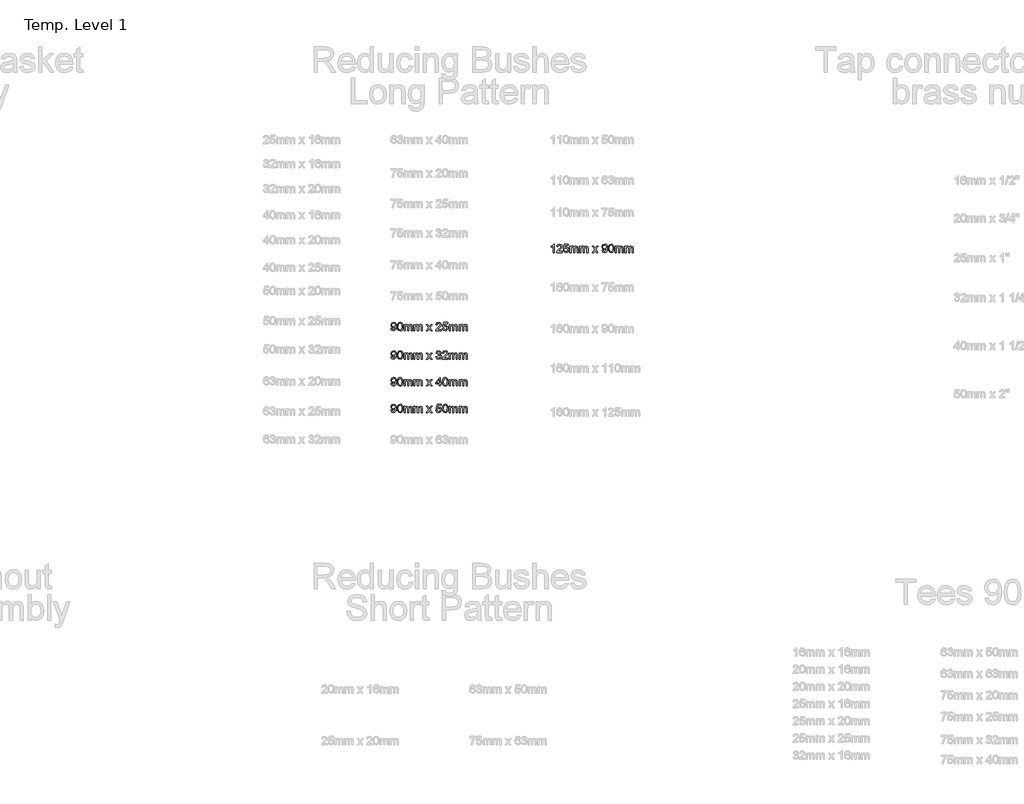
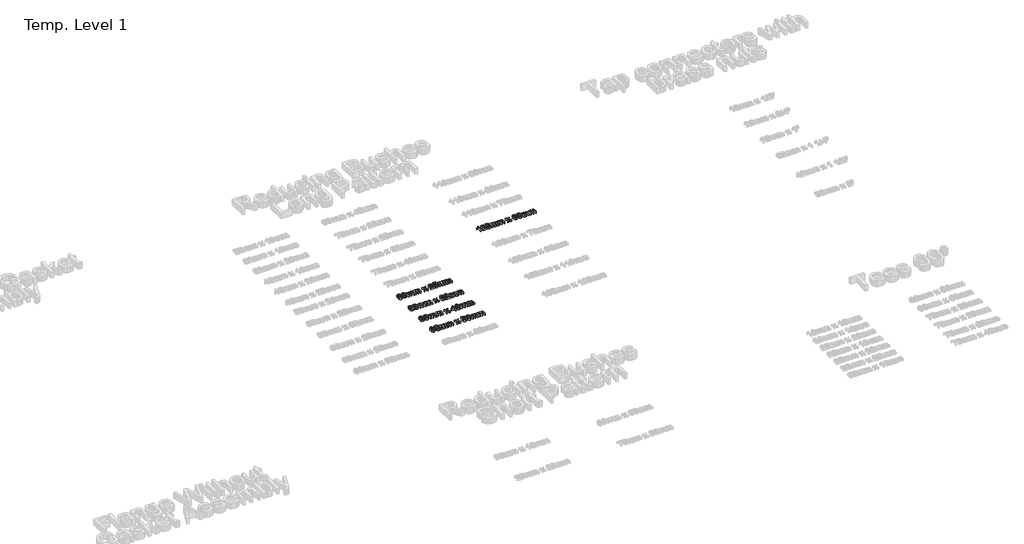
# One storey, part 45 of 62: 5 proxies.
"""IFC4 building model written with IfcOpenShell, lengths in millimetres."""

from ifc_helpers import new_model, si_unit, origin, origin_with_axes, place, context, project, spatial, polyline, outline, extrude, element, save

model = new_model("IFC4")

# Units and contexts
model_context = context("Model", 3, world=origin())
ifc_project = project(units=[si_unit("LENGTHUNIT", "METRE", prefix="MILLI")], contexts=[model_context])

# Site, building, storey
site = spatial("IfcSite", under=ifc_project)
building = spatial("IfcBuilding", under=site)
storey = spatial("IfcBuildingStorey", under=building, Name="Temp. Level 1", Elevation=0.0)

# Proxies
placement = place(None, origin())
element("IfcBuildingElementProxy", 1, Name="50mm Arial", ObjectType="50mm Arial", at=placement, inside=storey, context=model_context, shape_type="SweptSolid", body=[
    extrude(outline(polyline([(24080.1485724, -5468.2165118), (24086.3024185, -5467.447281), (24089.0668416, -5473.3186753), (24094.3072262, -5475.1395887), (24099.2891974, -5473.9677137), (24102.6666012, -5470.8367041), (24104.6798224, -5465.4881464), (24105.5692455, -5458.3487233), (24100.6113128, -5461.8102618), (24093.8625147, -5463.6011272), (24083.5800628, -5459.2261272), (24079.3793416, -5447.6996849), (24083.7843897, -5435.8006464), (24094.8240532, -5431.2934349), (24103.592082, -5433.8655503), (24109.6257359, -5441.197281), (24111.6870339, -5454.9713195), (24109.6317455, -5469.917233), (24103.5199666, -5478.384781), (24094.0187647, -5481.2934349), (24084.5596301, -5477.8619445), (24080.1485724, -5468.2165118)]), holes=[polyline([(24105.5331878, -5447.5554541), (24102.8769378, -5440.1756464), (24095.8216493, -5437.447281), (24088.4178032, -5440.385983), (24085.5331878, -5448.0001657), (24088.2615532, -5454.8210791), (24095.6533801, -5457.447281), (24102.7507359, -5454.8210791), (24105.5331878, -5447.5554541)])]), origin_with_axes(), (0.0, 0.0, 1.0), 15.0),
    extrude(outline(polyline([(24117.0716493, -5456.3054541), (24118.8805435, -5442.1407907), (24124.2531397, -5433.9737233), (24133.2254955, -5431.2934349), (24140.4129955, -5432.8799733), (24145.3769378, -5437.4532907), (24148.2615532, -5444.7369445), (24149.3793416, -5456.3054541), (24147.5884762, -5470.4100214), (24142.2339089, -5478.5951176), (24133.2254955, -5481.2934349), (24121.9754955, -5476.6059349), (24118.2976109, -5468.2796128), (24117.0716493, -5456.3054541)]), holes=[polyline([(24123.2254955, -5456.2934349), (24126.1101109, -5471.5758868), (24133.2254955, -5475.1395887), (24140.3408801, -5471.5638676), (24143.2254955, -5456.2934349), (24140.4370339, -5441.1852618), (24133.1533801, -5437.447281), (24126.2062647, -5440.7405503), (24123.2254955, -5456.2934349)])]), origin_with_axes(), (0.0, 0.0, 1.0), 15.0),
    extrude(outline(polyline([(24156.3024185, -5480.5242041), (24156.3024185, -5444.370358), (24162.4562647, -5444.370358), (24162.4562647, -5450.3198772), (24166.6870339, -5445.4460791), (24172.7086685, -5443.6011272), (24178.8745339, -5445.4821368), (24182.263957, -5450.7525695), (24187.0656397, -5445.3889878), (24193.1293416, -5443.6011272), (24201.1762166, -5446.5758868), (24203.9947262, -5455.7405503), (24203.9947262, -5480.5242041), (24197.8408801, -5480.5242041), (24197.8408801, -5458.384781), (24197.2699666, -5453.2465599), (24195.2026589, -5450.7165118), (24191.6870339, -5449.7549733), (24185.6353512, -5452.2189157), (24183.2254955, -5460.1155503), (24183.2254955, -5480.5242041), (24177.0716493, -5480.5242041), (24177.0716493, -5457.6996849), (24175.6473705, -5451.7381464), (24170.9778993, -5449.7549733), (24166.4226109, -5451.0770887), (24163.3937647, -5454.947281), (24162.4562647, -5462.291031), (24162.4562647, -5480.5242041), (24156.3024185, -5480.5242041)])), origin_with_axes(), (0.0, 0.0, 1.0), 15.0),
    extrude(outline(polyline([(24213.2254955, -5480.5242041), (24213.2254955, -5444.370358), (24219.3793416, -5444.370358), (24219.3793416, -5450.3198772), (24223.6101109, -5445.4460791), (24229.6317455, -5443.6011272), (24235.7976109, -5445.4821368), (24239.1870339, -5450.7525695), (24243.9887166, -5445.3889878), (24250.0524185, -5443.6011272), (24258.0992935, -5446.5758868), (24260.9178032, -5455.7405503), (24260.9178032, -5480.5242041), (24254.763957, -5480.5242041), (24254.763957, -5458.384781), (24254.1930435, -5453.2465599), (24252.1257359, -5450.7165118), (24248.6101109, -5449.7549733), (24242.5584282, -5452.2189157), (24240.1485724, -5460.1155503), (24240.1485724, -5480.5242041), (24233.9947262, -5480.5242041), (24233.9947262, -5457.6996849), (24232.5704474, -5451.7381464), (24227.9009762, -5449.7549733), (24223.3456878, -5451.0770887), (24220.3168416, -5454.947281), (24219.3793416, -5462.291031), (24219.3793416, -5480.5242041), (24213.2254955, -5480.5242041)])), origin_with_axes(), (0.0, 0.0, 1.0), 15.0),
    extrude(outline(polyline([(24285.5331878, -5480.5242041), (24298.6822262, -5462.3511272), (24286.3024185, -5444.370358), (24293.7062647, -5444.370358), (24299.6798224, -5453.0242041), (24302.4682839, -5457.1107426), (24304.8841493, -5453.7693964), (24311.6870339, -5444.370358), (24319.0908801, -5444.370358), (24306.0860724, -5462.3511272), (24318.6101109, -5480.5242041), (24311.2062647, -5480.5242041), (24303.670207, -5469.5987233), (24302.2879955, -5467.603531), (24292.9370339, -5480.5242041), (24285.5331878, -5480.5242041)])), origin_with_axes(), (0.0, 0.0, 1.0), 15.0),
    extrude(outline(polyline([(24373.2254955, -5474.370358), (24373.2254955, -5480.5242041), (24340.9178032, -5480.5242041), (24341.5788609, -5476.2814157), (24345.3168416, -5469.7489637), (24353.0211685, -5462.6155503), (24363.6461685, -5452.3631464), (24366.3024185, -5445.3919926), (24363.7964089, -5439.7489637), (24357.2519378, -5437.447281), (24350.4310243, -5439.6948772), (24347.8408801, -5445.9088195), (24341.6870339, -5445.1395887), (24346.404582, -5434.839108), (24357.3841493, -5431.2934349), (24368.3997743, -5435.2357426), (24372.4562647, -5445.0193964), (24371.3625147, -5450.854733), (24367.7266974, -5456.8883868), (24358.9105916, -5465.3198772), (24351.8312647, -5471.2393483), (24349.0548224, -5474.370358), (24373.2254955, -5474.370358)])), origin_with_axes(), (0.0, 0.0, 1.0), 15.0),
    extrude(outline(polyline([(24379.3793416, -5467.447281), (24385.5331878, -5466.6780503), (24388.6341493, -5473.0181945), (24395.0644378, -5475.1395887), (24402.7807839, -5472.1888676), (24405.5331878, -5464.3583387), (24402.9550628, -5457.0506464), (24395.1605916, -5454.370358), (24389.7579474, -5455.4400695), (24386.3024185, -5458.2165118), (24380.1485724, -5457.447281), (24385.5331878, -5432.0626657), (24409.3793416, -5432.0626657), (24409.3793416, -5438.2165118), (24390.5091493, -5438.2165118), (24387.8769378, -5451.7742041), (24396.8793416, -5448.2165118), (24407.4021782, -5452.6275695), (24411.6870339, -5463.9737233), (24407.8288609, -5475.3919926), (24402.2879955, -5479.8180743), (24395.0403993, -5481.2934349), (24384.1810243, -5477.5013676), (24379.3793416, -5467.447281)])), origin_with_axes(), (0.0, 0.0, 1.0), 15.0),
    extrude(outline(polyline([(24418.6101109, -5480.5242041), (24418.6101109, -5444.370358), (24424.763957, -5444.370358), (24424.763957, -5450.3198772), (24428.9947262, -5445.4460791), (24435.0163609, -5443.6011272), (24441.1822262, -5445.4821368), (24444.5716493, -5450.7525695), (24449.373332, -5445.3889878), (24455.4370339, -5443.6011272), (24463.4839089, -5446.5758868), (24466.3024185, -5455.7405503), (24466.3024185, -5480.5242041), (24460.1485724, -5480.5242041), (24460.1485724, -5458.384781), (24459.5776589, -5453.2465599), (24457.5103512, -5450.7165118), (24453.9947262, -5449.7549733), (24447.9430435, -5452.2189157), (24445.5331878, -5460.1155503), (24445.5331878, -5480.5242041), (24439.3793416, -5480.5242041), (24439.3793416, -5457.6996849), (24437.9550628, -5451.7381464), (24433.2855916, -5449.7549733), (24428.7303032, -5451.0770887), (24425.701457, -5454.947281), (24424.763957, -5462.291031), (24424.763957, -5480.5242041), (24418.6101109, -5480.5242041)])), origin_with_axes(), (0.0, 0.0, 1.0), 15.0),
    extrude(outline(polyline([(24475.5331878, -5480.5242041), (24475.5331878, -5444.370358), (24481.6870339, -5444.370358), (24481.6870339, -5450.3198772), (24485.9178032, -5445.4460791), (24491.9394378, -5443.6011272), (24498.1053032, -5445.4821368), (24501.4947262, -5450.7525695), (24506.2964089, -5445.3889878), (24512.3601109, -5443.6011272), (24520.4069859, -5446.5758868), (24523.2254955, -5455.7405503), (24523.2254955, -5480.5242041), (24517.0716493, -5480.5242041), (24517.0716493, -5458.384781), (24516.5007359, -5453.2465599), (24514.4334282, -5450.7165118), (24510.9178032, -5449.7549733), (24504.8661205, -5452.2189157), (24502.4562647, -5460.1155503), (24502.4562647, -5480.5242041), (24496.3024185, -5480.5242041), (24496.3024185, -5457.6996849), (24494.8781397, -5451.7381464), (24490.2086685, -5449.7549733), (24485.6533801, -5451.0770887), (24482.6245339, -5454.947281), (24481.6870339, -5462.291031), (24481.6870339, -5480.5242041), (24475.5331878, -5480.5242041)])), origin_with_axes(), (0.0, 0.0, 1.0), 15.0),
])
element("IfcBuildingElementProxy", 2, Name="50mm Arial", ObjectType="50mm Arial", at=placement, inside=storey, context=model_context, shape_type="SweptSolid", body=[
    extrude(outline(polyline([(24080.1485724, -5633.2165118), (24086.3024185, -5632.447281), (24089.0668416, -5638.3186753), (24094.3072262, -5640.1395887), (24099.2891974, -5638.9677137), (24102.6666012, -5635.8367041), (24104.6798224, -5630.4881464), (24105.5692455, -5623.3487233), (24100.6113128, -5626.8102618), (24093.8625147, -5628.6011272), (24083.5800628, -5624.2261272), (24079.3793416, -5612.6996849), (24083.7843897, -5600.8006464), (24094.8240532, -5596.2934349), (24103.592082, -5598.8655503), (24109.6257359, -5606.197281), (24111.6870339, -5619.9713195), (24109.6317455, -5634.917233), (24103.5199666, -5643.384781), (24094.0187647, -5646.2934349), (24084.5596301, -5642.8619445), (24080.1485724, -5633.2165118)]), holes=[polyline([(24105.5331878, -5612.5554541), (24102.8769378, -5605.1756464), (24095.8216493, -5602.447281), (24088.4178032, -5605.385983), (24085.5331878, -5613.0001657), (24088.2615532, -5619.8210791), (24095.6533801, -5622.447281), (24102.7507359, -5619.8210791), (24105.5331878, -5612.5554541)])]), origin_with_axes(), (0.0, 0.0, 1.0), 15.0),
    extrude(outline(polyline([(24117.0716493, -5621.3054541), (24118.8805435, -5607.1407907), (24124.2531397, -5598.9737233), (24133.2254955, -5596.2934349), (24140.4129955, -5597.8799733), (24145.3769378, -5602.4532907), (24148.2615532, -5609.7369445), (24149.3793416, -5621.3054541), (24147.5884762, -5635.4100214), (24142.2339089, -5643.5951176), (24133.2254955, -5646.2934349), (24121.9754955, -5641.6059349), (24118.2976109, -5633.2796128), (24117.0716493, -5621.3054541)]), holes=[polyline([(24123.2254955, -5621.2934349), (24126.1101109, -5636.5758868), (24133.2254955, -5640.1395887), (24140.3408801, -5636.5638676), (24143.2254955, -5621.2934349), (24140.4370339, -5606.1852618), (24133.1533801, -5602.447281), (24126.2062647, -5605.7405503), (24123.2254955, -5621.2934349)])]), origin_with_axes(), (0.0, 0.0, 1.0), 15.0),
    extrude(outline(polyline([(24156.3024185, -5645.5242041), (24156.3024185, -5609.370358), (24162.4562647, -5609.370358), (24162.4562647, -5615.3198772), (24166.6870339, -5610.4460791), (24172.7086685, -5608.6011272), (24178.8745339, -5610.4821368), (24182.263957, -5615.7525695), (24187.0656397, -5610.3889878), (24193.1293416, -5608.6011272), (24201.1762166, -5611.5758868), (24203.9947262, -5620.7405503), (24203.9947262, -5645.5242041), (24197.8408801, -5645.5242041), (24197.8408801, -5623.384781), (24197.2699666, -5618.2465599), (24195.2026589, -5615.7165118), (24191.6870339, -5614.7549733), (24185.6353512, -5617.2189157), (24183.2254955, -5625.1155503), (24183.2254955, -5645.5242041), (24177.0716493, -5645.5242041), (24177.0716493, -5622.6996849), (24175.6473705, -5616.7381464), (24170.9778993, -5614.7549733), (24166.4226109, -5616.0770887), (24163.3937647, -5619.947281), (24162.4562647, -5627.291031), (24162.4562647, -5645.5242041), (24156.3024185, -5645.5242041)])), origin_with_axes(), (0.0, 0.0, 1.0), 15.0),
    extrude(outline(polyline([(24213.2254955, -5645.5242041), (24213.2254955, -5609.370358), (24219.3793416, -5609.370358), (24219.3793416, -5615.3198772), (24223.6101109, -5610.4460791), (24229.6317455, -5608.6011272), (24235.7976109, -5610.4821368), (24239.1870339, -5615.7525695), (24243.9887166, -5610.3889878), (24250.0524185, -5608.6011272), (24258.0992935, -5611.5758868), (24260.9178032, -5620.7405503), (24260.9178032, -5645.5242041), (24254.763957, -5645.5242041), (24254.763957, -5623.384781), (24254.1930435, -5618.2465599), (24252.1257359, -5615.7165118), (24248.6101109, -5614.7549733), (24242.5584282, -5617.2189157), (24240.1485724, -5625.1155503), (24240.1485724, -5645.5242041), (24233.9947262, -5645.5242041), (24233.9947262, -5622.6996849), (24232.5704474, -5616.7381464), (24227.9009762, -5614.7549733), (24223.3456878, -5616.0770887), (24220.3168416, -5619.947281), (24219.3793416, -5627.291031), (24219.3793416, -5645.5242041), (24213.2254955, -5645.5242041)])), origin_with_axes(), (0.0, 0.0, 1.0), 15.0),
    extrude(outline(polyline([(24285.5331878, -5645.5242041), (24298.6822262, -5627.3511272), (24286.3024185, -5609.370358), (24293.7062647, -5609.370358), (24299.6798224, -5618.0242041), (24302.4682839, -5622.1107426), (24304.8841493, -5618.7693964), (24311.6870339, -5609.370358), (24319.0908801, -5609.370358), (24306.0860724, -5627.3511272), (24318.6101109, -5645.5242041), (24311.2062647, -5645.5242041), (24303.670207, -5634.5987233), (24302.2879955, -5632.603531), (24292.9370339, -5645.5242041), (24285.5331878, -5645.5242041)])), origin_with_axes(), (0.0, 0.0, 1.0), 15.0),
    extrude(outline(polyline([(24341.6870339, -5632.447281), (24347.8408801, -5631.6780503), (24351.2363128, -5638.1564157), (24357.5884762, -5640.1395887), (24365.0644378, -5637.4112233), (24367.8408801, -5630.6564157), (24365.0884762, -5624.292233), (24358.0932839, -5621.7742041), (24353.7783801, -5622.447281), (24354.4634762, -5616.2934349), (24362.4322262, -5614.5987233), (24365.5331878, -5609.166031), (24363.2855916, -5604.3523291), (24357.4923224, -5602.447281), (24351.6269378, -5604.370358), (24348.6101109, -5610.1395887), (24342.4562647, -5609.370358), (24347.4923224, -5599.7189157), (24357.2759762, -5596.2934349), (24364.6978512, -5597.9821368), (24369.8901589, -5602.5975214), (24371.6870339, -5608.8054541), (24369.9803032, -5614.478531), (24364.9322262, -5618.5530503), (24371.638957, -5622.759781), (24373.9947262, -5630.7645887), (24369.2831878, -5641.7742041), (24357.3721301, -5646.2934349), (24346.5788609, -5642.4352618), (24341.6870339, -5632.447281)])), origin_with_axes(), (0.0, 0.0, 1.0), 15.0),
    extrude(outline(polyline([(24410.9178032, -5639.370358), (24410.9178032, -5645.5242041), (24378.6101109, -5645.5242041), (24379.2711685, -5641.2814157), (24383.0091493, -5634.7489637), (24390.7134762, -5627.6155503), (24401.3384762, -5617.3631464), (24403.9947262, -5610.3919926), (24401.4887166, -5604.7489637), (24394.9442455, -5602.447281), (24388.123332, -5604.6948772), (24385.5331878, -5610.9088195), (24379.3793416, -5610.1395887), (24384.0968897, -5599.839108), (24395.076457, -5596.2934349), (24406.092082, -5600.2357426), (24410.1485724, -5610.0193964), (24409.0548224, -5615.854733), (24405.4190051, -5621.8883868), (24396.6028993, -5630.3198772), (24389.5235724, -5636.2393483), (24386.7471301, -5639.370358), (24410.9178032, -5639.370358)])), origin_with_axes(), (0.0, 0.0, 1.0), 15.0),
    extrude(outline(polyline([(24418.6101109, -5645.5242041), (24418.6101109, -5609.370358), (24424.763957, -5609.370358), (24424.763957, -5615.3198772), (24428.9947262, -5610.4460791), (24435.0163609, -5608.6011272), (24441.1822262, -5610.4821368), (24444.5716493, -5615.7525695), (24449.373332, -5610.3889878), (24455.4370339, -5608.6011272), (24463.4839089, -5611.5758868), (24466.3024185, -5620.7405503), (24466.3024185, -5645.5242041), (24460.1485724, -5645.5242041), (24460.1485724, -5623.384781), (24459.5776589, -5618.2465599), (24457.5103512, -5615.7165118), (24453.9947262, -5614.7549733), (24447.9430435, -5617.2189157), (24445.5331878, -5625.1155503), (24445.5331878, -5645.5242041), (24439.3793416, -5645.5242041), (24439.3793416, -5622.6996849), (24437.9550628, -5616.7381464), (24433.2855916, -5614.7549733), (24428.7303032, -5616.0770887), (24425.701457, -5619.947281), (24424.763957, -5627.291031), (24424.763957, -5645.5242041), (24418.6101109, -5645.5242041)])), origin_with_axes(), (0.0, 0.0, 1.0), 15.0),
    extrude(outline(polyline([(24475.5331878, -5645.5242041), (24475.5331878, -5609.370358), (24481.6870339, -5609.370358), (24481.6870339, -5615.3198772), (24485.9178032, -5610.4460791), (24491.9394378, -5608.6011272), (24498.1053032, -5610.4821368), (24501.4947262, -5615.7525695), (24506.2964089, -5610.3889878), (24512.3601109, -5608.6011272), (24520.4069859, -5611.5758868), (24523.2254955, -5620.7405503), (24523.2254955, -5645.5242041), (24517.0716493, -5645.5242041), (24517.0716493, -5623.384781), (24516.5007359, -5618.2465599), (24514.4334282, -5615.7165118), (24510.9178032, -5614.7549733), (24504.8661205, -5617.2189157), (24502.4562647, -5625.1155503), (24502.4562647, -5645.5242041), (24496.3024185, -5645.5242041), (24496.3024185, -5622.6996849), (24494.8781397, -5616.7381464), (24490.2086685, -5614.7549733), (24485.6533801, -5616.0770887), (24482.6245339, -5619.947281), (24481.6870339, -5627.291031), (24481.6870339, -5645.5242041), (24475.5331878, -5645.5242041)])), origin_with_axes(), (0.0, 0.0, 1.0), 15.0),
])
element("IfcBuildingElementProxy", 3, Name="50mm Arial", ObjectType="50mm Arial", at=placement, inside=storey, context=model_context, shape_type="SweptSolid", body=[
    extrude(outline(polyline([(24080.1485724, -5788.2165118), (24086.3024185, -5787.447281), (24089.0668416, -5793.3186753), (24094.3072262, -5795.1395887), (24099.2891974, -5793.9677137), (24102.6666012, -5790.8367041), (24104.6798224, -5785.4881464), (24105.5692455, -5778.3487233), (24100.6113128, -5781.8102618), (24093.8625147, -5783.6011272), (24083.5800628, -5779.2261272), (24079.3793416, -5767.6996849), (24083.7843897, -5755.8006464), (24094.8240532, -5751.2934349), (24103.592082, -5753.8655503), (24109.6257359, -5761.197281), (24111.6870339, -5774.9713195), (24109.6317455, -5789.917233), (24103.5199666, -5798.384781), (24094.0187647, -5801.2934349), (24084.5596301, -5797.8619445), (24080.1485724, -5788.2165118)]), holes=[polyline([(24105.5331878, -5767.5554541), (24102.8769378, -5760.1756464), (24095.8216493, -5757.447281), (24088.4178032, -5760.385983), (24085.5331878, -5768.0001657), (24088.2615532, -5774.8210791), (24095.6533801, -5777.447281), (24102.7507359, -5774.8210791), (24105.5331878, -5767.5554541)])]), origin_with_axes(), (0.0, 0.0, 1.0), 15.0),
    extrude(outline(polyline([(24117.0716493, -5776.3054541), (24118.8805435, -5762.1407907), (24124.2531397, -5753.9737233), (24133.2254955, -5751.2934349), (24140.4129955, -5752.8799733), (24145.3769378, -5757.4532907), (24148.2615532, -5764.7369445), (24149.3793416, -5776.3054541), (24147.5884762, -5790.4100214), (24142.2339089, -5798.5951176), (24133.2254955, -5801.2934349), (24121.9754955, -5796.6059349), (24118.2976109, -5788.2796128), (24117.0716493, -5776.3054541)]), holes=[polyline([(24123.2254955, -5776.2934349), (24126.1101109, -5791.5758868), (24133.2254955, -5795.1395887), (24140.3408801, -5791.5638676), (24143.2254955, -5776.2934349), (24140.4370339, -5761.1852618), (24133.1533801, -5757.447281), (24126.2062647, -5760.7405503), (24123.2254955, -5776.2934349)])]), origin_with_axes(), (0.0, 0.0, 1.0), 15.0),
    extrude(outline(polyline([(24156.3024185, -5800.5242041), (24156.3024185, -5764.370358), (24162.4562647, -5764.370358), (24162.4562647, -5770.3198772), (24166.6870339, -5765.4460791), (24172.7086685, -5763.6011272), (24178.8745339, -5765.4821368), (24182.263957, -5770.7525695), (24187.0656397, -5765.3889878), (24193.1293416, -5763.6011272), (24201.1762166, -5766.5758868), (24203.9947262, -5775.7405503), (24203.9947262, -5800.5242041), (24197.8408801, -5800.5242041), (24197.8408801, -5778.384781), (24197.2699666, -5773.2465599), (24195.2026589, -5770.7165118), (24191.6870339, -5769.7549733), (24185.6353512, -5772.2189157), (24183.2254955, -5780.1155503), (24183.2254955, -5800.5242041), (24177.0716493, -5800.5242041), (24177.0716493, -5777.6996849), (24175.6473705, -5771.7381464), (24170.9778993, -5769.7549733), (24166.4226109, -5771.0770887), (24163.3937647, -5774.947281), (24162.4562647, -5782.291031), (24162.4562647, -5800.5242041), (24156.3024185, -5800.5242041)])), origin_with_axes(), (0.0, 0.0, 1.0), 15.0),
    extrude(outline(polyline([(24213.2254955, -5800.5242041), (24213.2254955, -5764.370358), (24219.3793416, -5764.370358), (24219.3793416, -5770.3198772), (24223.6101109, -5765.4460791), (24229.6317455, -5763.6011272), (24235.7976109, -5765.4821368), (24239.1870339, -5770.7525695), (24243.9887166, -5765.3889878), (24250.0524185, -5763.6011272), (24258.0992935, -5766.5758868), (24260.9178032, -5775.7405503), (24260.9178032, -5800.5242041), (24254.763957, -5800.5242041), (24254.763957, -5778.384781), (24254.1930435, -5773.2465599), (24252.1257359, -5770.7165118), (24248.6101109, -5769.7549733), (24242.5584282, -5772.2189157), (24240.1485724, -5780.1155503), (24240.1485724, -5800.5242041), (24233.9947262, -5800.5242041), (24233.9947262, -5777.6996849), (24232.5704474, -5771.7381464), (24227.9009762, -5769.7549733), (24223.3456878, -5771.0770887), (24220.3168416, -5774.947281), (24219.3793416, -5782.291031), (24219.3793416, -5800.5242041), (24213.2254955, -5800.5242041)])), origin_with_axes(), (0.0, 0.0, 1.0), 15.0),
    extrude(outline(polyline([(24285.5331878, -5800.5242041), (24298.6822262, -5782.3511272), (24286.3024185, -5764.370358), (24293.7062647, -5764.370358), (24299.6798224, -5773.0242041), (24302.4682839, -5777.1107426), (24304.8841493, -5773.7693964), (24311.6870339, -5764.370358), (24319.0908801, -5764.370358), (24306.0860724, -5782.3511272), (24318.6101109, -5800.5242041), (24311.2062647, -5800.5242041), (24303.670207, -5789.5987233), (24302.2879955, -5787.603531), (24292.9370339, -5800.5242041), (24285.5331878, -5800.5242041)])), origin_with_axes(), (0.0, 0.0, 1.0), 15.0),
    extrude(outline(polyline([(24361.6870339, -5800.5242041), (24361.6870339, -5788.9857426), (24339.3793416, -5788.9857426), (24339.3793416, -5782.8318964), (24363.2254955, -5752.0626657), (24367.8408801, -5752.0626657), (24367.8408801, -5782.8318964), (24373.9947262, -5782.8318964), (24373.9947262, -5788.9857426), (24367.8408801, -5788.9857426), (24367.8408801, -5800.5242041), (24361.6870339, -5800.5242041)]), holes=[polyline([(24361.6870339, -5782.8318964), (24361.6870339, -5763.8174733), (24346.951457, -5782.8318964), (24361.6870339, -5782.8318964)])]), origin_with_axes(), (0.0, 0.0, 1.0), 15.0),
    extrude(outline(polyline([(24379.3793416, -5776.3054541), (24381.1882359, -5762.1407907), (24386.560832, -5753.9737233), (24395.5331878, -5751.2934349), (24402.7206878, -5752.8799733), (24407.6846301, -5757.4532907), (24410.5692455, -5764.7369445), (24411.6870339, -5776.3054541), (24409.8961685, -5790.4100214), (24404.5416012, -5798.5951176), (24395.5331878, -5801.2934349), (24384.2831878, -5796.6059349), (24380.6053032, -5788.2796128), (24379.3793416, -5776.3054541)]), holes=[polyline([(24385.5331878, -5776.2934349), (24388.4178032, -5791.5758868), (24395.5331878, -5795.1395887), (24402.6485724, -5791.5638676), (24405.5331878, -5776.2934349), (24402.7447262, -5761.1852618), (24395.4610724, -5757.447281), (24388.513957, -5760.7405503), (24385.5331878, -5776.2934349)])]), origin_with_axes(), (0.0, 0.0, 1.0), 15.0),
    extrude(outline(polyline([(24418.6101109, -5800.5242041), (24418.6101109, -5764.370358), (24424.763957, -5764.370358), (24424.763957, -5770.3198772), (24428.9947262, -5765.4460791), (24435.0163609, -5763.6011272), (24441.1822262, -5765.4821368), (24444.5716493, -5770.7525695), (24449.373332, -5765.3889878), (24455.4370339, -5763.6011272), (24463.4839089, -5766.5758868), (24466.3024185, -5775.7405503), (24466.3024185, -5800.5242041), (24460.1485724, -5800.5242041), (24460.1485724, -5778.384781), (24459.5776589, -5773.2465599), (24457.5103512, -5770.7165118), (24453.9947262, -5769.7549733), (24447.9430435, -5772.2189157), (24445.5331878, -5780.1155503), (24445.5331878, -5800.5242041), (24439.3793416, -5800.5242041), (24439.3793416, -5777.6996849), (24437.9550628, -5771.7381464), (24433.2855916, -5769.7549733), (24428.7303032, -5771.0770887), (24425.701457, -5774.947281), (24424.763957, -5782.291031), (24424.763957, -5800.5242041), (24418.6101109, -5800.5242041)])), origin_with_axes(), (0.0, 0.0, 1.0), 15.0),
    extrude(outline(polyline([(24475.5331878, -5800.5242041), (24475.5331878, -5764.370358), (24481.6870339, -5764.370358), (24481.6870339, -5770.3198772), (24485.9178032, -5765.4460791), (24491.9394378, -5763.6011272), (24498.1053032, -5765.4821368), (24501.4947262, -5770.7525695), (24506.2964089, -5765.3889878), (24512.3601109, -5763.6011272), (24520.4069859, -5766.5758868), (24523.2254955, -5775.7405503), (24523.2254955, -5800.5242041), (24517.0716493, -5800.5242041), (24517.0716493, -5778.384781), (24516.5007359, -5773.2465599), (24514.4334282, -5770.7165118), (24510.9178032, -5769.7549733), (24504.8661205, -5772.2189157), (24502.4562647, -5780.1155503), (24502.4562647, -5800.5242041), (24496.3024185, -5800.5242041), (24496.3024185, -5777.6996849), (24494.8781397, -5771.7381464), (24490.2086685, -5769.7549733), (24485.6533801, -5771.0770887), (24482.6245339, -5774.947281), (24481.6870339, -5782.291031), (24481.6870339, -5800.5242041), (24475.5331878, -5800.5242041)])), origin_with_axes(), (0.0, 0.0, 1.0), 15.0),
])
element("IfcBuildingElementProxy", 4, Name="50mm Arial", ObjectType="50mm Arial", at=placement, inside=storey, context=model_context, shape_type="SweptSolid", body=[
    extrude(outline(polyline([(24080.1485724, -5943.2165118), (24086.3024185, -5942.447281), (24089.0668416, -5948.3186753), (24094.3072262, -5950.1395887), (24099.2891974, -5948.9677137), (24102.6666012, -5945.8367041), (24104.6798224, -5940.4881464), (24105.5692455, -5933.3487233), (24100.6113128, -5936.8102618), (24093.8625147, -5938.6011272), (24083.5800628, -5934.2261272), (24079.3793416, -5922.6996849), (24083.7843897, -5910.8006464), (24094.8240532, -5906.2934349), (24103.592082, -5908.8655503), (24109.6257359, -5916.197281), (24111.6870339, -5929.9713195), (24109.6317455, -5944.917233), (24103.5199666, -5953.384781), (24094.0187647, -5956.2934349), (24084.5596301, -5952.8619445), (24080.1485724, -5943.2165118)]), holes=[polyline([(24105.5331878, -5922.5554541), (24102.8769378, -5915.1756464), (24095.8216493, -5912.447281), (24088.4178032, -5915.385983), (24085.5331878, -5923.0001657), (24088.2615532, -5929.8210791), (24095.6533801, -5932.447281), (24102.7507359, -5929.8210791), (24105.5331878, -5922.5554541)])]), origin_with_axes(), (0.0, 0.0, 1.0), 15.0),
    extrude(outline(polyline([(24117.0716493, -5931.3054541), (24118.8805435, -5917.1407907), (24124.2531397, -5908.9737233), (24133.2254955, -5906.2934349), (24140.4129955, -5907.8799733), (24145.3769378, -5912.4532907), (24148.2615532, -5919.7369445), (24149.3793416, -5931.3054541), (24147.5884762, -5945.4100214), (24142.2339089, -5953.5951176), (24133.2254955, -5956.2934349), (24121.9754955, -5951.6059349), (24118.2976109, -5943.2796128), (24117.0716493, -5931.3054541)]), holes=[polyline([(24123.2254955, -5931.2934349), (24126.1101109, -5946.5758868), (24133.2254955, -5950.1395887), (24140.3408801, -5946.5638676), (24143.2254955, -5931.2934349), (24140.4370339, -5916.1852618), (24133.1533801, -5912.447281), (24126.2062647, -5915.7405503), (24123.2254955, -5931.2934349)])]), origin_with_axes(), (0.0, 0.0, 1.0), 15.0),
    extrude(outline(polyline([(24156.3024185, -5955.5242041), (24156.3024185, -5919.370358), (24162.4562647, -5919.370358), (24162.4562647, -5925.3198772), (24166.6870339, -5920.4460791), (24172.7086685, -5918.6011272), (24178.8745339, -5920.4821368), (24182.263957, -5925.7525695), (24187.0656397, -5920.3889878), (24193.1293416, -5918.6011272), (24201.1762166, -5921.5758868), (24203.9947262, -5930.7405503), (24203.9947262, -5955.5242041), (24197.8408801, -5955.5242041), (24197.8408801, -5933.384781), (24197.2699666, -5928.2465599), (24195.2026589, -5925.7165118), (24191.6870339, -5924.7549733), (24185.6353512, -5927.2189157), (24183.2254955, -5935.1155503), (24183.2254955, -5955.5242041), (24177.0716493, -5955.5242041), (24177.0716493, -5932.6996849), (24175.6473705, -5926.7381464), (24170.9778993, -5924.7549733), (24166.4226109, -5926.0770887), (24163.3937647, -5929.947281), (24162.4562647, -5937.291031), (24162.4562647, -5955.5242041), (24156.3024185, -5955.5242041)])), origin_with_axes(), (0.0, 0.0, 1.0), 15.0),
    extrude(outline(polyline([(24213.2254955, -5955.5242041), (24213.2254955, -5919.370358), (24219.3793416, -5919.370358), (24219.3793416, -5925.3198772), (24223.6101109, -5920.4460791), (24229.6317455, -5918.6011272), (24235.7976109, -5920.4821368), (24239.1870339, -5925.7525695), (24243.9887166, -5920.3889878), (24250.0524185, -5918.6011272), (24258.0992935, -5921.5758868), (24260.9178032, -5930.7405503), (24260.9178032, -5955.5242041), (24254.763957, -5955.5242041), (24254.763957, -5933.384781), (24254.1930435, -5928.2465599), (24252.1257359, -5925.7165118), (24248.6101109, -5924.7549733), (24242.5584282, -5927.2189157), (24240.1485724, -5935.1155503), (24240.1485724, -5955.5242041), (24233.9947262, -5955.5242041), (24233.9947262, -5932.6996849), (24232.5704474, -5926.7381464), (24227.9009762, -5924.7549733), (24223.3456878, -5926.0770887), (24220.3168416, -5929.947281), (24219.3793416, -5937.291031), (24219.3793416, -5955.5242041), (24213.2254955, -5955.5242041)])), origin_with_axes(), (0.0, 0.0, 1.0), 15.0),
    extrude(outline(polyline([(24285.5331878, -5955.5242041), (24298.6822262, -5937.3511272), (24286.3024185, -5919.370358), (24293.7062647, -5919.370358), (24299.6798224, -5928.0242041), (24302.4682839, -5932.1107426), (24304.8841493, -5928.7693964), (24311.6870339, -5919.370358), (24319.0908801, -5919.370358), (24306.0860724, -5937.3511272), (24318.6101109, -5955.5242041), (24311.2062647, -5955.5242041), (24303.670207, -5944.5987233), (24302.2879955, -5942.603531), (24292.9370339, -5955.5242041), (24285.5331878, -5955.5242041)])), origin_with_axes(), (0.0, 0.0, 1.0), 15.0),
    extrude(outline(polyline([(24341.6870339, -5942.447281), (24347.8408801, -5941.6780503), (24350.9418416, -5948.0181945), (24357.3721301, -5950.1395887), (24365.0884762, -5947.1888676), (24367.8408801, -5939.3583387), (24365.2627551, -5932.0506464), (24357.4682839, -5929.370358), (24352.0656397, -5930.4400695), (24348.6101109, -5933.2165118), (24342.4562647, -5932.447281), (24347.8408801, -5907.0626657), (24371.6870339, -5907.0626657), (24371.6870339, -5913.2165118), (24352.8168416, -5913.2165118), (24350.1846301, -5926.7742041), (24359.1870339, -5923.2165118), (24369.7098705, -5927.6275695), (24373.9947262, -5938.9737233), (24370.1365532, -5950.3919926), (24364.5956878, -5954.8180743), (24357.3480916, -5956.2934349), (24346.4887166, -5952.5013676), (24341.6870339, -5942.447281)])), origin_with_axes(), (0.0, 0.0, 1.0), 15.0),
    extrude(outline(polyline([(24379.3793416, -5931.3054541), (24381.1882359, -5917.1407907), (24386.560832, -5908.9737233), (24395.5331878, -5906.2934349), (24402.7206878, -5907.8799733), (24407.6846301, -5912.4532907), (24410.5692455, -5919.7369445), (24411.6870339, -5931.3054541), (24409.8961685, -5945.4100214), (24404.5416012, -5953.5951176), (24395.5331878, -5956.2934349), (24384.2831878, -5951.6059349), (24380.6053032, -5943.2796128), (24379.3793416, -5931.3054541)]), holes=[polyline([(24385.5331878, -5931.2934349), (24388.4178032, -5946.5758868), (24395.5331878, -5950.1395887), (24402.6485724, -5946.5638676), (24405.5331878, -5931.2934349), (24402.7447262, -5916.1852618), (24395.4610724, -5912.447281), (24388.513957, -5915.7405503), (24385.5331878, -5931.2934349)])]), origin_with_axes(), (0.0, 0.0, 1.0), 15.0),
    extrude(outline(polyline([(24418.6101109, -5955.5242041), (24418.6101109, -5919.370358), (24424.763957, -5919.370358), (24424.763957, -5925.3198772), (24428.9947262, -5920.4460791), (24435.0163609, -5918.6011272), (24441.1822262, -5920.4821368), (24444.5716493, -5925.7525695), (24449.373332, -5920.3889878), (24455.4370339, -5918.6011272), (24463.4839089, -5921.5758868), (24466.3024185, -5930.7405503), (24466.3024185, -5955.5242041), (24460.1485724, -5955.5242041), (24460.1485724, -5933.384781), (24459.5776589, -5928.2465599), (24457.5103512, -5925.7165118), (24453.9947262, -5924.7549733), (24447.9430435, -5927.2189157), (24445.5331878, -5935.1155503), (24445.5331878, -5955.5242041), (24439.3793416, -5955.5242041), (24439.3793416, -5932.6996849), (24437.9550628, -5926.7381464), (24433.2855916, -5924.7549733), (24428.7303032, -5926.0770887), (24425.701457, -5929.947281), (24424.763957, -5937.291031), (24424.763957, -5955.5242041), (24418.6101109, -5955.5242041)])), origin_with_axes(), (0.0, 0.0, 1.0), 15.0),
    extrude(outline(polyline([(24475.5331878, -5955.5242041), (24475.5331878, -5919.370358), (24481.6870339, -5919.370358), (24481.6870339, -5925.3198772), (24485.9178032, -5920.4460791), (24491.9394378, -5918.6011272), (24498.1053032, -5920.4821368), (24501.4947262, -5925.7525695), (24506.2964089, -5920.3889878), (24512.3601109, -5918.6011272), (24520.4069859, -5921.5758868), (24523.2254955, -5930.7405503), (24523.2254955, -5955.5242041), (24517.0716493, -5955.5242041), (24517.0716493, -5933.384781), (24516.5007359, -5928.2465599), (24514.4334282, -5925.7165118), (24510.9178032, -5924.7549733), (24504.8661205, -5927.2189157), (24502.4562647, -5935.1155503), (24502.4562647, -5955.5242041), (24496.3024185, -5955.5242041), (24496.3024185, -5932.6996849), (24494.8781397, -5926.7381464), (24490.2086685, -5924.7549733), (24485.6533801, -5926.0770887), (24482.6245339, -5929.947281), (24481.6870339, -5937.291031), (24481.6870339, -5955.5242041), (24475.5331878, -5955.5242041)])), origin_with_axes(), (0.0, 0.0, 1.0), 15.0),
])
element("IfcBuildingElementProxy", 5, Name="50mm Arial", ObjectType="50mm Arial", at=placement, inside=storey, context=model_context, shape_type="SweptSolid", body=[
    extrude(outline(polyline([(25028.6101109, -5025.5242041), (25022.4562647, -5025.5242041), (25022.4562647, -4987.1588195), (25016.6269378, -4991.3114637), (25010.1485724, -4994.4184349), (25010.1485724, -4988.6011272), (25019.1690051, -4982.8439157), (25024.6437647, -4976.2934349), (25028.6101109, -4976.2934349), (25028.6101109, -5025.5242041)])), origin_with_axes(), (0.0, 0.0, 1.0), 15.0),
    extrude(outline(polyline([(25074.763957, -5019.370358), (25074.763957, -5025.5242041), (25042.4562647, -5025.5242041), (25043.1173224, -5021.2814157), (25046.8553032, -5014.7489637), (25054.5596301, -5007.6155503), (25065.1846301, -4997.3631464), (25067.8408801, -4990.3919926), (25065.3348705, -4984.7489637), (25058.7903993, -4982.447281), (25051.9694859, -4984.6948772), (25049.3793416, -4990.9088195), (25043.2254955, -4990.1395887), (25047.9430435, -4979.839108), (25058.9226109, -4976.2934349), (25069.9382359, -4980.2357426), (25073.9947262, -4990.0193964), (25072.9009762, -4995.854733), (25069.2651589, -5001.8883868), (25060.4490532, -5010.3198772), (25053.3697262, -5016.2393483), (25050.5932839, -5019.370358), (25074.763957, -5019.370358)])), origin_with_axes(), (0.0, 0.0, 1.0), 15.0),
    extrude(outline(polyline([(25080.9178032, -5012.447281), (25087.0716493, -5011.6780503), (25090.1726109, -5018.0181945), (25096.6028993, -5020.1395887), (25104.3192455, -5017.1888676), (25107.0716493, -5009.3583387), (25104.4935243, -5002.0506464), (25096.6990532, -4999.370358), (25091.2964089, -5000.4400695), (25087.8408801, -5003.2165118), (25081.6870339, -5002.447281), (25087.0716493, -4977.0626657), (25110.9178032, -4977.0626657), (25110.9178032, -4983.2165118), (25092.0476109, -4983.2165118), (25089.4153993, -4996.7742041), (25098.4178032, -4993.2165118), (25108.9406397, -4997.6275695), (25113.2254955, -5008.9737233), (25109.3673224, -5020.3919926), (25103.826457, -5024.8180743), (25096.5788609, -5026.2934349), (25085.7194859, -5022.5013676), (25080.9178032, -5012.447281)])), origin_with_axes(), (0.0, 0.0, 1.0), 15.0),
    extrude(outline(polyline([(25120.1485724, -5025.5242041), (25120.1485724, -4989.370358), (25126.3024185, -4989.370358), (25126.3024185, -4995.3198772), (25130.5331878, -4990.4460791), (25136.5548224, -4988.6011272), (25142.7206878, -4990.4821368), (25146.1101109, -4995.7525695), (25150.9117935, -4990.3889878), (25156.9754955, -4988.6011272), (25165.0223705, -4991.5758868), (25167.8408801, -5000.7405503), (25167.8408801, -5025.5242041), (25161.6870339, -5025.5242041), (25161.6870339, -5003.384781), (25161.1161205, -4998.2465599), (25159.0488128, -4995.7165118), (25155.5331878, -4994.7549733), (25149.4815051, -4997.2189157), (25147.0716493, -5005.1155503), (25147.0716493, -5025.5242041), (25140.9178032, -5025.5242041), (25140.9178032, -5002.6996849), (25139.4935243, -4996.7381464), (25134.8240532, -4994.7549733), (25130.2687647, -4996.0770887), (25127.2399185, -4999.947281), (25126.3024185, -5007.291031), (25126.3024185, -5025.5242041), (25120.1485724, -5025.5242041)])), origin_with_axes(), (0.0, 0.0, 1.0), 15.0),
    extrude(outline(polyline([(25177.0716493, -5025.5242041), (25177.0716493, -4989.370358), (25183.2254955, -4989.370358), (25183.2254955, -4995.3198772), (25187.4562647, -4990.4460791), (25193.4778993, -4988.6011272), (25199.6437647, -4990.4821368), (25203.0331878, -4995.7525695), (25207.8348705, -4990.3889878), (25213.8985724, -4988.6011272), (25221.9454474, -4991.5758868), (25224.763957, -5000.7405503), (25224.763957, -5025.5242041), (25218.6101109, -5025.5242041), (25218.6101109, -5003.384781), (25218.0391974, -4998.2465599), (25215.9718897, -4995.7165118), (25212.4562647, -4994.7549733), (25206.404582, -4997.2189157), (25203.9947262, -5005.1155503), (25203.9947262, -5025.5242041), (25197.8408801, -5025.5242041), (25197.8408801, -5002.6996849), (25196.4166012, -4996.7381464), (25191.7471301, -4994.7549733), (25187.1918416, -4996.0770887), (25184.1629955, -4999.947281), (25183.2254955, -5007.291031), (25183.2254955, -5025.5242041), (25177.0716493, -5025.5242041)])), origin_with_axes(), (0.0, 0.0, 1.0), 15.0),
    extrude(outline(polyline([(25249.3793416, -5025.5242041), (25262.5283801, -5007.3511272), (25250.1485724, -4989.370358), (25257.5524185, -4989.370358), (25263.5259762, -4998.0242041), (25266.3144378, -5002.1107426), (25268.7303032, -4998.7693964), (25275.5331878, -4989.370358), (25282.9370339, -4989.370358), (25269.9322262, -5007.3511272), (25282.4562647, -5025.5242041), (25275.0524185, -5025.5242041), (25267.5163609, -5014.5987233), (25266.1341493, -5012.603531), (25256.7831878, -5025.5242041), (25249.3793416, -5025.5242041)])), origin_with_axes(), (0.0, 0.0, 1.0), 15.0),
    extrude(outline(polyline([(25306.3024185, -5013.2165118), (25312.4562647, -5012.447281), (25315.2206878, -5018.3186753), (25320.4610724, -5020.1395887), (25325.4430435, -5018.9677137), (25328.8204474, -5015.8367041), (25330.8336685, -5010.4881464), (25331.7230916, -5003.3487233), (25326.7651589, -5006.8102618), (25320.0163609, -5008.6011272), (25309.7339089, -5004.2261272), (25305.5331878, -4992.6996849), (25309.9382359, -4980.8006464), (25320.9778993, -4976.2934349), (25329.7459282, -4978.8655503), (25335.779582, -4986.197281), (25337.8408801, -4999.9713195), (25335.7855916, -5014.917233), (25329.6738128, -5023.384781), (25320.1726109, -5026.2934349), (25310.7134762, -5022.8619445), (25306.3024185, -5013.2165118)]), holes=[polyline([(25331.6870339, -4992.5554541), (25329.0307839, -4985.1756464), (25321.9754955, -4982.447281), (25314.5716493, -4985.385983), (25311.6870339, -4993.0001657), (25314.4153993, -4999.8210791), (25321.8072262, -5002.447281), (25328.904582, -4999.8210791), (25331.6870339, -4992.5554541)])]), origin_with_axes(), (0.0, 0.0, 1.0), 15.0),
    extrude(outline(polyline([(25343.2254955, -5001.3054541), (25345.0343897, -4987.1407907), (25350.4069859, -4978.9737233), (25359.3793416, -4976.2934349), (25366.5668416, -4977.8799733), (25371.5307839, -4982.4532907), (25374.4153993, -4989.7369445), (25375.5331878, -5001.3054541), (25373.7423224, -5015.4100214), (25368.3877551, -5023.5951176), (25359.3793416, -5026.2934349), (25348.1293416, -5021.6059349), (25344.451457, -5013.2796128), (25343.2254955, -5001.3054541)]), holes=[polyline([(25349.3793416, -5001.2934349), (25352.263957, -5016.5758868), (25359.3793416, -5020.1395887), (25366.4947262, -5016.5638676), (25369.3793416, -5001.2934349), (25366.5908801, -4986.1852618), (25359.3072262, -4982.447281), (25352.3601109, -4985.7405503), (25349.3793416, -5001.2934349)])]), origin_with_axes(), (0.0, 0.0, 1.0), 15.0),
    extrude(outline(polyline([(25382.4562647, -5025.5242041), (25382.4562647, -4989.370358), (25388.6101109, -4989.370358), (25388.6101109, -4995.3198772), (25392.8408801, -4990.4460791), (25398.8625147, -4988.6011272), (25405.0283801, -4990.4821368), (25408.4178032, -4995.7525695), (25413.2194859, -4990.3889878), (25419.2831878, -4988.6011272), (25427.3300628, -4991.5758868), (25430.1485724, -5000.7405503), (25430.1485724, -5025.5242041), (25423.9947262, -5025.5242041), (25423.9947262, -5003.384781), (25423.4238128, -4998.2465599), (25421.3565051, -4995.7165118), (25417.8408801, -4994.7549733), (25411.7891974, -4997.2189157), (25409.3793416, -5005.1155503), (25409.3793416, -5025.5242041), (25403.2254955, -5025.5242041), (25403.2254955, -5002.6996849), (25401.8012166, -4996.7381464), (25397.1317455, -4994.7549733), (25392.576457, -4996.0770887), (25389.5476109, -4999.947281), (25388.6101109, -5007.291031), (25388.6101109, -5025.5242041), (25382.4562647, -5025.5242041)])), origin_with_axes(), (0.0, 0.0, 1.0), 15.0),
    extrude(outline(polyline([(25439.3793416, -5025.5242041), (25439.3793416, -4989.370358), (25445.5331878, -4989.370358), (25445.5331878, -4995.3198772), (25449.763957, -4990.4460791), (25455.7855916, -4988.6011272), (25461.951457, -4990.4821368), (25465.3408801, -4995.7525695), (25470.1425628, -4990.3889878), (25476.2062647, -4988.6011272), (25484.2531397, -4991.5758868), (25487.0716493, -5000.7405503), (25487.0716493, -5025.5242041), (25480.9178032, -5025.5242041), (25480.9178032, -5003.384781), (25480.3468897, -4998.2465599), (25478.279582, -4995.7165118), (25474.763957, -4994.7549733), (25468.7122743, -4997.2189157), (25466.3024185, -5005.1155503), (25466.3024185, -5025.5242041), (25460.1485724, -5025.5242041), (25460.1485724, -5002.6996849), (25458.7242935, -4996.7381464), (25454.0548224, -4994.7549733), (25449.4995339, -4996.0770887), (25446.4706878, -4999.947281), (25445.5331878, -5007.291031), (25445.5331878, -5025.5242041), (25439.3793416, -5025.5242041)])), origin_with_axes(), (0.0, 0.0, 1.0), 15.0),
])

save(model, "model.ifc")
